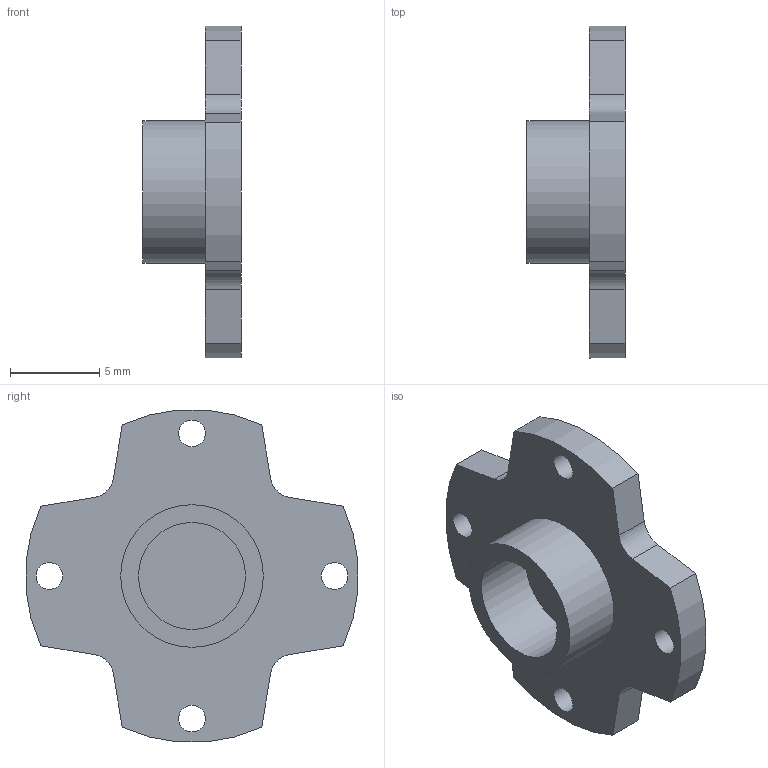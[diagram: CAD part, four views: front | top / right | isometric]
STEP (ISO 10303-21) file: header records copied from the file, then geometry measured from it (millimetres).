
FILE_DESCRIPTION(/* description */ ('STEP AP242 Edition 2','CAx-IF Rec.Pracs.---Representation and Presentation of Product Manufacturing Information (PMI)---4.0---2014-10-13','CAx-IF Rec.Pracs.---3D Tessellated Geometry---0.4---2014-09-14','2;1','CAx-IF Rec.Pracs.---User Defined Attributes---1.5---2016-08-15'),/* implementation_level */ '2;1');
FILE_NAME(/* name */ 'Assembly 1 - 26263',/* time_stamp */ '2026-08-25T12:56:58Z',/* author */ (''),/* organization */ (''),/* preprocessor_version */ 'ST-DEVELOPER v20',/* originating_system */ 'ONSHAPE BY PTC INC, 1.219',/* authorisation */ ' ');
FILE_SCHEMA (('AP242_MANAGED_MODEL_BASED_3D_ENGINEERING_MIM_LF { 1 0 10303 442 3 1 4 }'));
Length unit declared in the file: metre
Products named in the file (1): 26263
Bounding box: 5.5 x 18.62 x 18.62 mm (x, y, z)
Volume: 533 mm3; surface area: 774.1 mm2
Topology: 1 solids, 1 shells, 26 faces, 67 edges, 45 vertices
Faces by surface type: cylinder 14, plane 12
Full cylindrical faces by diameter (mm): 1.5 x4, 6 x1, 8 x1
Entity records: 806 total; most frequent: DIRECTION 142, CARTESIAN_POINT 131, ORIENTED_EDGE 120, EDGE_CURVE 60, AXIS2_PLACEMENT_3D 55, VERTEX_POINT 44, EDGE_LOOP 42, FACE_BOUND 42
